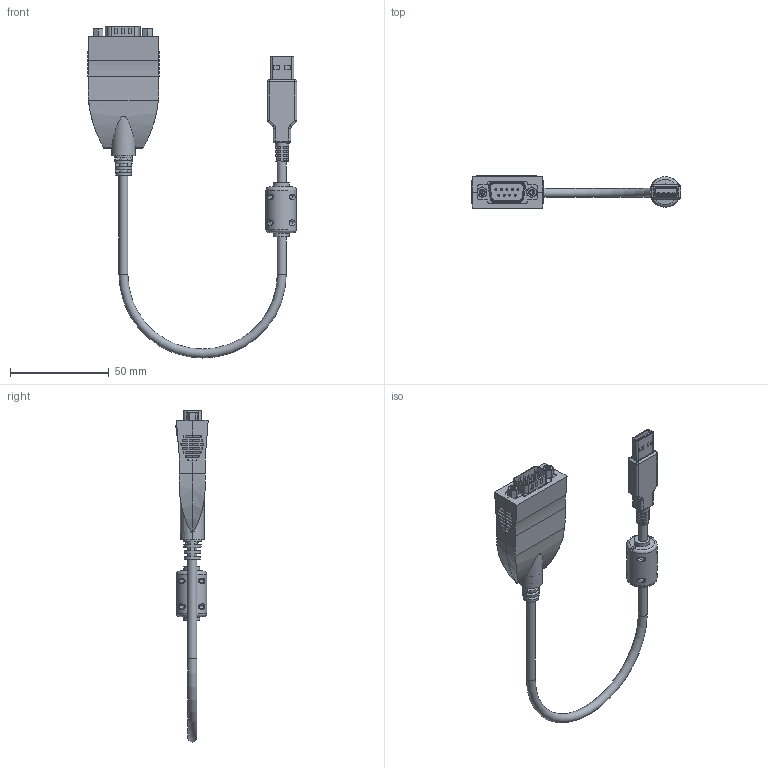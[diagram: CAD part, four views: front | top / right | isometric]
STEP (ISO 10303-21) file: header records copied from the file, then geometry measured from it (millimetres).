
FILE_DESCRIPTION(/* description */ (''),/* implementation_level */ '2;1');
FILE_NAME(/* name */ '/Users/leo/Desktop/Desktop - Leonardo’s MacBook Air/Coolgear May/GM-FTDI2-A12/GM-FTDI2-A12 Model3D LPV1.step',/* time_stamp */ '2021-07-13T11:28:15-04:00',/* author */ (''),/* organization */ (''),/* preprocessor_version */ 'ST-DEVELOPER v18.1',/* originating_system */ 'Autodesk Translation Framework v10.9.0.1377',/* authorisation */ '');
FILE_SCHEMA (('AUTOMOTIVE_DESIGN { 1 0 10303 214 3 1 1 }'));
Length unit declared in the file: millimetre
Products named in the file (1): FusionComponent
Bounding box: 106.03 x 16.32 x 167.71 mm (x, y, z)
Volume: 23374.8 mm3; surface area: 26945.8 mm2
Topology: 13 solids, 19 shells, 2644 faces, 7428 edges, 4806 vertices
Faces by surface type: bspline 1283, cylinder 626, plane 619, torus 49, cone 34, sphere 33
Full cylindrical faces by diameter (mm): 0.9 x9, 1 x18, 1.5 x19, 2.02 x10, 2.845 x12, 3 x2, 4.4 x2, 4.5 x6, 8 x2, 10 x2, 10.4 x2, 15.4 x1
Entity records: 97536 total; most frequent: CARTESIAN_POINT 32157, ORIENTED_EDGE 14702, DIRECTION 13380, EDGE_CURVE 7351, AXIS2_PLACEMENT_3D 5095, VERTEX_POINT 4801, LINE 3190, VECTOR 3190
